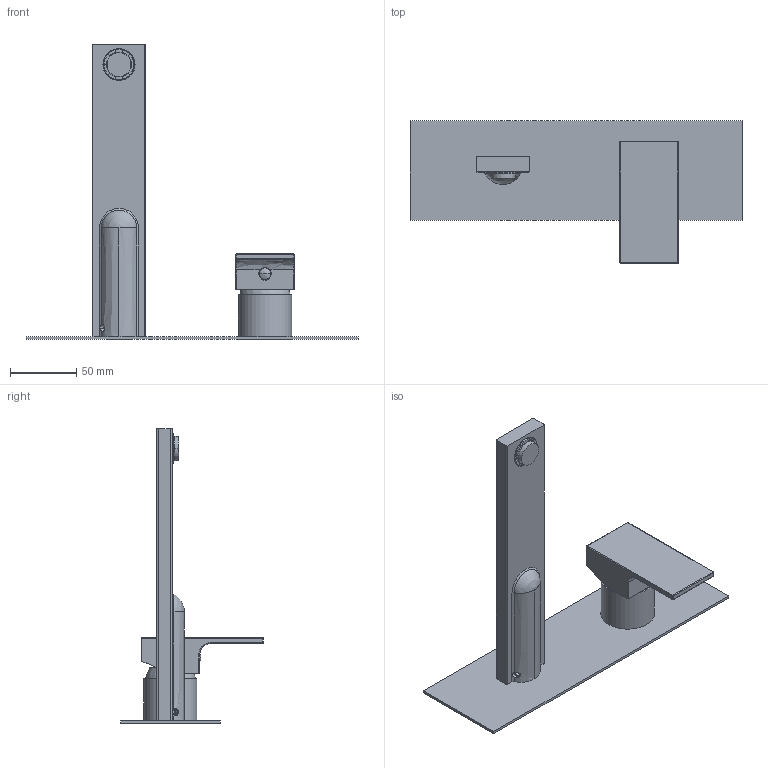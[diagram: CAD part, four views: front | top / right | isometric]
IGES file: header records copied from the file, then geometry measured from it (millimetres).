
Start section:  PTC IGES file: 35548A.igs
Global section: file name: 35548A.igs; native system: Creo Parametric by PTC Inc.; preprocessor: 2022014; author: carloff; organization: Unknown; date: 20260203.145552; units: millimetre
Bounding box: 250 x 107.5 x 222 mm (x, y, z)
Surface area: 118099.7 mm2 (no closed solid volume)
Topology: 0 solids, 0 shells, 900 faces, 5109 edges, 5100 vertices
Faces by surface type: revolution 521, bspline 379
